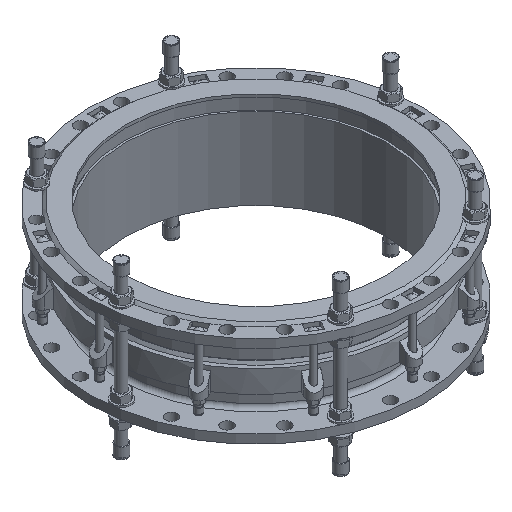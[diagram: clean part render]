
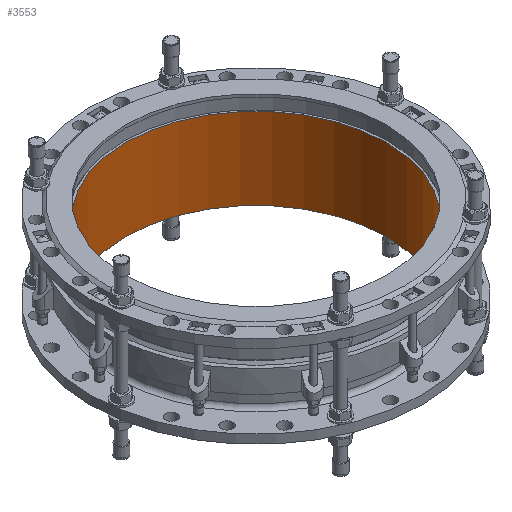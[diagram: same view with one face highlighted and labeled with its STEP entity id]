
A CAD part, isometric view. The second image highlights one B-rep face of the part: STEP entity #3553.
In plain terms, the highlighted cylindrical face has radius 350 mm (diameter 700 mm), a full revolution.
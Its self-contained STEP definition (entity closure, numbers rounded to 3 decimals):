
#3553=ADVANCED_FACE('',(#4366,#4368),#4370,.F.);
#4366=FACE_OUTER_BOUND('',#4367,.T.);
#4367=EDGE_LOOP('',(#7826));
#4368=FACE_OUTER_BOUND('',#4369,.T.);
#4369=EDGE_LOOP('',(#7827));
#4370=CYLINDRICAL_SURFACE('',#4371,350.);
#4371=AXIS2_PLACEMENT_3D('',#4372,#4373,#4374);
#4372=CARTESIAN_POINT('',(0.,0.,0.));
#4373=DIRECTION('',(0.,0.,1.));
#4374=DIRECTION('',(-1.,0.,0.));
#7826=ORIENTED_EDGE('',*,*,#10297,.F.);
#7827=ORIENTED_EDGE('',*,*,#10298,.F.);
#10297=EDGE_CURVE('',#11448,#11448,#11449,.T.);
#10298=EDGE_CURVE('',#11450,#11450,#11451,.T.);
#11448=VERTEX_POINT('',#13419);
#11449=CIRCLE('',#13420,350.);
#11450=VERTEX_POINT('',#13424);
#11451=CIRCLE('',#13425,350.);
#13419=CARTESIAN_POINT('',(-350.,0.,219.));
#13420=AXIS2_PLACEMENT_3D('',#13421,#13422,#13423);
#13421=CARTESIAN_POINT('',(0.,0.,219.));
#13422=DIRECTION('',(0.,0.,-1.));
#13423=DIRECTION('',(-1.,0.,0.));
#13424=CARTESIAN_POINT('',(-350.,0.,0.));
#13425=AXIS2_PLACEMENT_3D('',#13426,#13427,#13428);
#13426=CARTESIAN_POINT('',(0.,0.,0.));
#13427=DIRECTION('',(0.,0.,1.));
#13428=DIRECTION('',(-1.,0.,0.));
